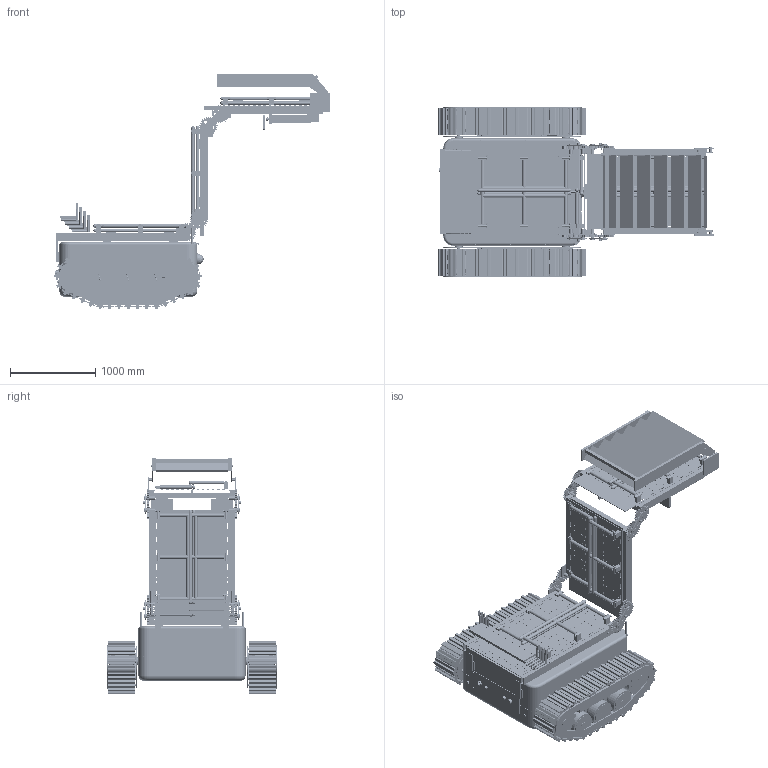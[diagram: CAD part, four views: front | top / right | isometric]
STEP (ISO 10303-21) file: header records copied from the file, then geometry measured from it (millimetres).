
FILE_DESCRIPTION(('Open CASCADE Model'),'2;1');
FILE_NAME('Open CASCADE Shape Model','2026-11-24T20:14:07',('Author'),( 'Open CASCADE'),'Open CASCADE STEP processor 7.9','Open CASCADE 7.9' ,'Unknown');
FILE_SCHEMA(('AUTOMOTIVE_DESIGN { 1 0 10303 214 1 1 1 1 }'));
Length unit declared in the file: centimetre
Products named in the file (676): AKORA_C13a_OPENING_STAGE_01; 01_MAIN_BODY; BODY_LOWER; BODY_LOWER_TUB; BODY_JOINT_FLANGE_INNER; BODY_UPPER; BODY_UPPER_TUB; BODY_JOINT_BEAD; COVER_GASKET; COVER_GASKET_EPDM_10x8; PEDESTAL_GROMMET_600_L; PEDESTAL_GROMMET_600_R; PEDESTAL_GROMMET_1380_L; PEDESTAL_GROMMET_1380_R; SERVICE_PANEL_REAR_GASKET; COVER_INTERLOCK; COVER_SEAT_RING_FEMALE; COVER_LOCKS; COVER_QUARTER_TURN_STUD_01; COVER_RECEPTACLE_01; COVER_QUARTER_TURN_STUD_02; COVER_RECEPTACLE_02; COVER_QUARTER_TURN_STUD_03; COVER_RECEPTACLE_03; COVER_QUARTER_TURN_STUD_04; COVER_RECEPTACLE_04; COVER_QUARTER_TURN_STUD_05; COVER_RECEPTACLE_05; COVER_QUARTER_TURN_STUD_06; COVER_RECEPTACLE_06; COVER_QUARTER_TURN_STUD_07; COVER_RECEPTACLE_07; COVER_QUARTER_TURN_STUD_08; COVER_RECEPTACLE_08; COVER_QUARTER_TURN_STUD_09; COVER_RECEPTACLE_09; COVER_QUARTER_TURN_STUD_10; COVER_RECEPTACLE_10; INTERNAL_FRAME; FRAME_RAIL_L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
Assembly tree (743 placements, depth 5):
  AKORA_C13a_OPENING_STAGE_01
    01_MAIN_BODY
      BODY_LOWER
        BODY_LOWER_TUB
        BODY_JOINT_FLANGE_INNER
      BODY_UPPER
        BODY_UPPER_TUB
        BODY_JOINT_BEAD
      COVER_GASKET
        COVER_GASKET_EPDM_10x8
        PEDESTAL_GROMMET_600_L
        PEDESTAL_GROMMET_600_R
        PEDESTAL_GROMMET_1380_L
        PEDESTAL_GROMMET_1380_R
        SERVICE_PANEL_REAR_GASKET
      COVER_INTERLOCK
        COVER_SEAT_RING_FEMALE
      COVER_LOCKS
        COVER_QUARTER_TURN_STUD_01
        COVER_RECEPTACLE_01
        COVER_QUARTER_TURN_STUD_02
        COVER_RECEPTACLE_02
        COVER_QUARTER_TURN_STUD_03
        COVER_RECEPTACLE_03
        COVER_QUARTER_TURN_STUD_04
        COVER_RECEPTACLE_04
        COVER_QUARTER_TURN_STUD_05
        COVER_RECEPTACLE_05
        COVER_QUARTER_TURN_STUD_06
        COVER_RECEPTACLE_06
        COVER_QUARTER_TURN_STUD_07
        COVER_RECEPTACLE_07
        COVER_QUARTER_TURN_STUD_08
        COVER_RECEPTACLE_08
        COVER_QUARTER_TURN_STUD_09
        COVER_RECEPTACLE_09
        COVER_QUARTER_TURN_STUD_10
        COVER_RECEPTACLE_10
      INTERNAL_FRAME
        FRAME_RAIL_L
        FRAME_RAIL_R
        FRAME_CROSS_1
        FRAME_CROSS_2
        FRAME_CROSS_3
        FRAME_CROSS_4
        FRAME_CROSS_5
        TRACK_MOTOR_PLATE_L
        TRACK_MOTOR_PLATE_R
      MOUNTING_BRACKETS
        FRAME_WALL_BRACKET_L_400
        FRAME_WALL_BRACKET_L_1300
        FRAME_WALL_BRACKET_R_400
        FRAME_WALL_BRACKET_R_1300
        P1_PEDESTAL_600_L
        P1_PEDESTAL_600_R
        P1_PEDESTAL_1380_L
        P1_PEDESTAL_1380_R
        REAR_LANDING_BRACKET_L
        REAR_LANDING_BRACKET_R
      SERVICE_PANELS
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Bounding box: 3237.73 x 1994 x 2763.52 mm (x, y, z)
Volume: 628183892.7 mm3; surface area: 87864523.7 mm2
Topology: 1494 solids, 1498 shells, 16526 faces, 39817 edges, 26536 vertices
Faces by surface type: plane 14101, cylinder 2385, sphere 22, torus 16, revolution 2
Full cylindrical faces by diameter (mm): 8 x18, 9 x20, 9.2 x10, 10 x150, 10.5 x4, 12 x34, 13 x4, 14 x4, 16 x36, 17 x8, 18 x4, 20 x15, 22 x12, 24 x39, 25 x16, 28 x34, 30 x64, 30.6 x40, 32 x22, 34 x36, 36 x4, 37 x54, 40 x96, 41 x8, 42 x54, 44 x11, 48 x24, 56 x2, 60 x5, 62 x4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
Entity records: 931551 total; most frequent: CARTESIAN_POINT 190398, DIRECTION 134825, LINE 95116, VECTOR 95116, ORIENTED_EDGE 69780, PCURVE 69764, DEFINITIONAL_REPRESENTATION 69764, EDGE_CURVE 34882
